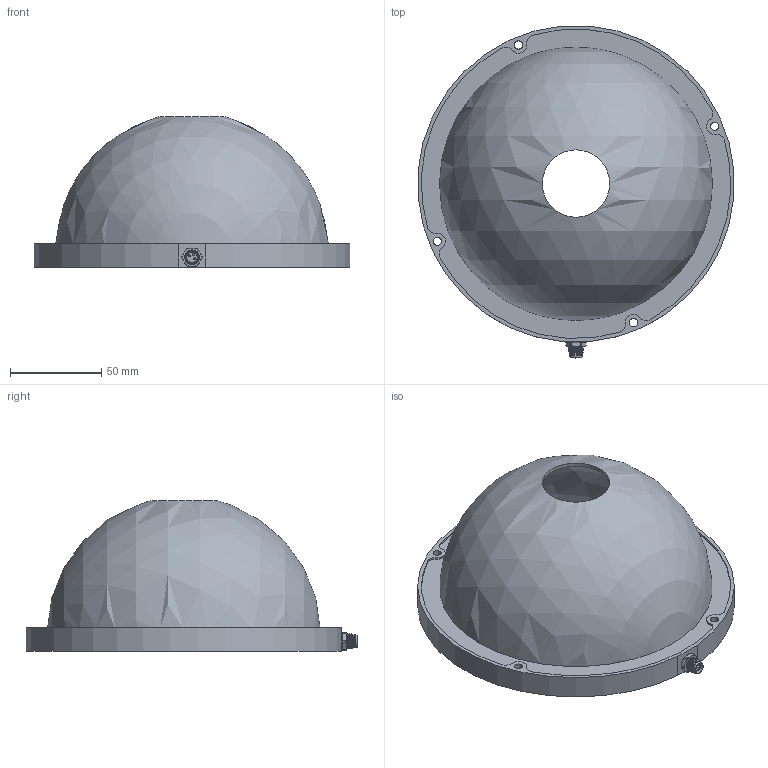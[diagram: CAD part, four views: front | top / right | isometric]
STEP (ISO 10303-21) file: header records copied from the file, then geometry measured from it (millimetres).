
FILE_DESCRIPTION (( 'STEP AP214' ), '1' );
FILE_NAME ('19039004-STP03v01 - DL116_R.STEP', '2019-09-30T19:08:41', ( '' ), ( '' ), 'SwSTEP 2.0', 'SolidWorks 2018', '' );
FILE_SCHEMA (( 'AUTOMOTIVE_DESIGN' ));
Length unit declared in the file: millimetre
Products named in the file (1): 19039004-STP03v01 - DL116_R
Bounding box: 173.34 x 182.34 x 82.68 mm (x, y, z)
Volume: 184476.3 mm3; surface area: 104295.9 mm2
Topology: 1 solids, 3 shells, 156 faces, 435 edges, 288 vertices
Faces by surface type: cylinder 57, bspline 49, plane 25, cone 16, sphere 5, torus 4
Full cylindrical faces by diameter (mm): 1 x3, 4.5 x4, 5.8 x1, 6.5 x1, 6.8 x1, 6.9 x1, 8 x2, 37 x1, 116 x1, 146 x1
Entity records: 18136 total; most frequent: CARTESIAN_POINT 14165, ORIENTED_EDGE 778, DIRECTION 518, EDGE_CURVE 389, VERTEX_POINT 273, AXIS2_PLACEMENT_3D 217, EDGE_LOOP 204, B_SPLINE_CURVE_WITH_KNOTS 196
